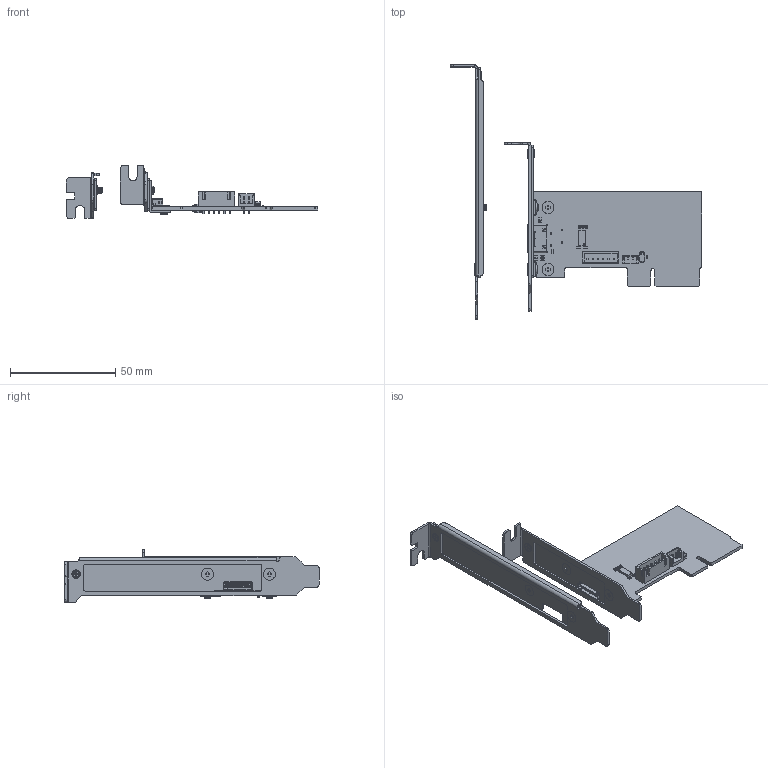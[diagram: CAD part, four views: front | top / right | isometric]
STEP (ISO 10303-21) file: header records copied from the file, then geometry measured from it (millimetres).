
FILE_DESCRIPTION(('Open CASCADE Model'),'2;1');
FILE_NAME('Open CASCADE Shape Model','2025-08-13T14:57:57',('Author'),( 'Open CASCADE'),'Open CASCADE STEP processor 7.5','Open CASCADE 7.5' ,'Unknown');
FILE_SCHEMA(('AUTOMOTIVE_DESIGN { 1 0 10303 214 1 1 1 1 }'));
Length unit declared in the file: millimetre
Products named in the file (82): PCB; Board; Open CASCADE STEP translator 7.5 4.1.1; C8; C0201_020; C7; CN4; EH-2P; CN3; B6B-XH-A; U2; 10426094560; Open CASCADE STEP translator 7.5 4.1; Body; Open CASCADE STEP translator 7.5 4.2.1; ball; U1; 13211997472; R19; 0603_RES; Capsule; Encapsulation; TopCover; R18; R14; R13; R12; R11; R7; R6; D3; LED AP1608; D2; D1; User Library-DO-214AC SMA; CN2; OcuLinkĸع; C26; C0603_060; C25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
Assembly tree (269 placements, depth 5):
  PCB
    Board
      Open CASCADE STEP translator 7.5 4.1.1
    C8
      C0201_020
      C0201_020
      C0201_020
    C7
      C0201_020
      C0201_020
      C0201_020
    CN4
      EH-2P
    CN3
      B6B-XH-A  x2
      B6B-XH-A
    U2
      10426094560
        Open CASCADE STEP translator 7.5 4.1
        Body
          Open CASCADE STEP translator 7.5 4.2.1
        ball  x49
    U1
      13211997472
        Open CASCADE STEP translator 7.5 4.1
        Body
          Open CASCADE STEP translator 7.5 4.2.1
        ball  x49
    R19
      0603_RES
        Capsule
        Encapsulation  x2
        TopCover
    R18
      0603_RES
        Capsule
        Encapsulation  x2
        TopCover
    R14
      0603_RES
        Capsule
        Encapsulation  x2
        TopCover
    R13
      0603_RES
        Capsule
        Encapsulation  x2
        TopCover
    R12
      0603_RES
        Capsule
        Encapsulation  x2
        TopCover
    R11
      0603_RES
        Capsule
        Encapsulation  x2
        TopCover
    R7
      0603_RES
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Bounding box: 119.6 x 121 x 25.17 mm (x, y, z)
Volume: 12640.6 mm3; surface area: 25251.7 mm2
Topology: 251 solids, 253 shells, 8646 faces, 22303 edges, 14040 vertices
Faces by surface type: plane 5964, cylinder 1554, bspline 769, sphere 306, cone 47, torus 6
Full cylindrical faces by diameter (mm): 0.362 x2, 1 x2, 1.05 x8, 2.356 x12, 2.927 x24, 3 x2, 3.2 x10, 4 x6, 4.5 x2
Entity records: 187894 total; most frequent: CARTESIAN_POINT 39606, ORIENTED_EDGE 22688, DIRECTION 20955, EDGE_CURVE 11345, LINE 9511, VECTOR 9511, VERTEX_POINT 7228, AXIS2_PLACEMENT_3D 5722
